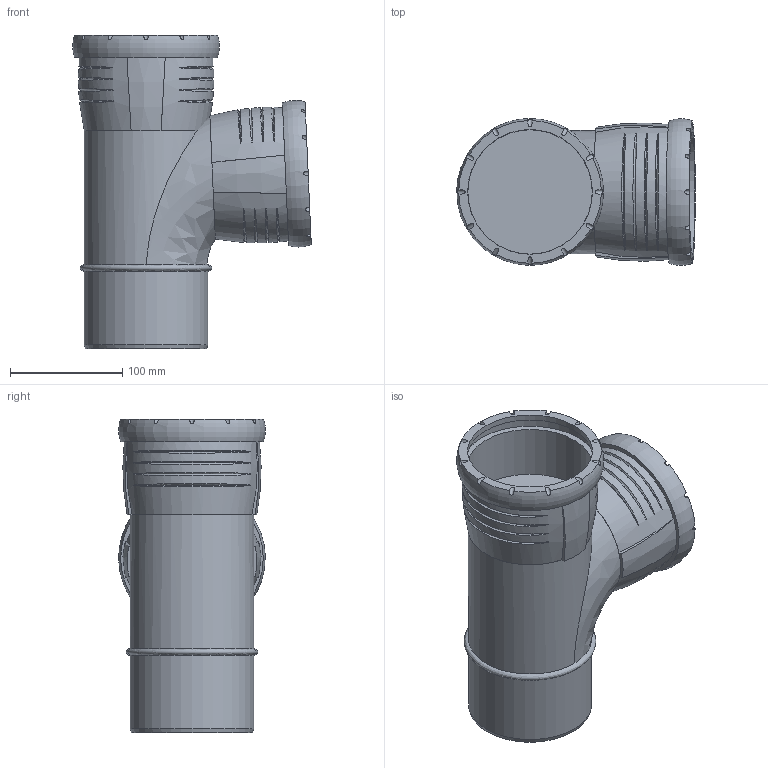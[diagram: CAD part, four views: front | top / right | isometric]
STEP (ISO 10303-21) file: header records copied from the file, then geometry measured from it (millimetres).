
FILE_DESCRIPTION(/* description */ (''),/* implementation_level */ '2;1');
FILE_NAME(/* name */ 'H:\Geberit-Teile\Export\Abzweig PP\stp\393555.stp',/* time_stamp */ '2017-02-13T13:23:22+01:00',/* author */ ('seihe2'),/* organization */ (''),/* preprocessor_version */ 'ST-DEVELOPER v15.2',/* originating_system */ 'Autodesk Inventor 2014',/* authorisation */ '');
FILE_SCHEMA (('AUTOMOTIVE_DESIGN { 1 0 10303 214 3 1 1 }'));
Length unit declared in the file: millimetre
Products named in the file (1): 393555
Bounding box: 212.81 x 130.89 x 279.9 mm (x, y, z)
Volume: 2247484.2 mm3; surface area: 298180.3 mm2
Topology: 5 solids, 5 shells, 104 faces, 241 edges, 171 vertices
Faces by surface type: bspline 46, cylinder 36, plane 19, torus 2, cone 1
Full cylindrical faces by diameter (mm): 90 x2, 101.2 x1, 110.2 x2, 111 x2, 111.3 x2, 121.5 x2
Entity records: 7677 total; most frequent: CARTESIAN_POINT 5550, ORIENTED_EDGE 444, DIRECTION 312, EDGE_CURVE 221, VERTEX_POINT 165, AXIS2_PLACEMENT_3D 156, EDGE_LOOP 146, B_SPLINE_CURVE_WITH_KNOTS 124
